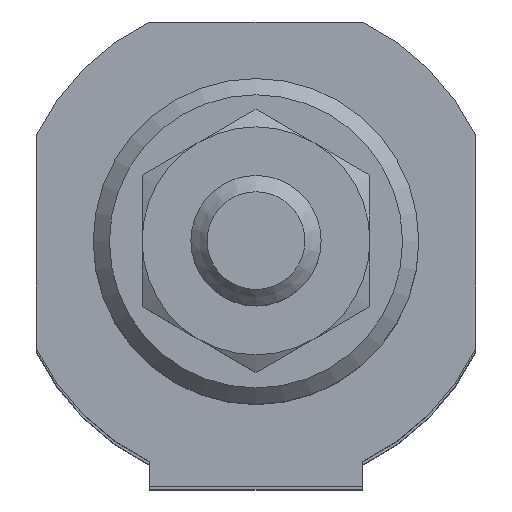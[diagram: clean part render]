
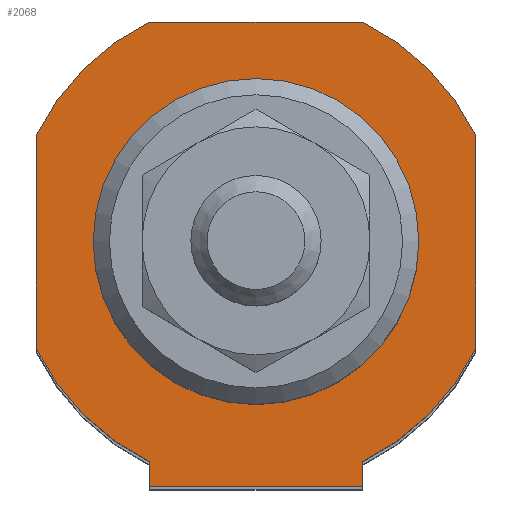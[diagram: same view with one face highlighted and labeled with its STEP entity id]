
A CAD part, top view. The second image highlights one B-rep face of the part: STEP entity #2068.
In plain terms, the highlighted planar face has unit normal (0, 0, 1).
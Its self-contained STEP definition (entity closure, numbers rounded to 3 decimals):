
#1123=CARTESIAN_POINT('',(6.538,-15.0,159.));
#1124=VERTEX_POINT('',#1123);
#1125=CARTESIAN_POINT('',(-6.538,-15.0,159.));
#1126=VERTEX_POINT('',#1125);
#1127=CARTESIAN_POINT('',(6.538,-15.0,159.));
#1128=DIRECTION('',(-1.0,0.0,0.0));
#1129=VECTOR('',#1128,13.077);
#1130=LINE('',#1127,#1129);
#1131=EDGE_CURVE('',#1124,#1126,#1130,.T.);
#1420=CARTESIAN_POINT('',(-6.538,-13.5,159.));
#1421=VERTEX_POINT('',#1420);
#1435=CARTESIAN_POINT('',(-6.538,-13.5,159.));
#1436=DIRECTION('',(0.0,-1.0,0.0));
#1437=VECTOR('',#1436,1.5);
#1438=LINE('',#1435,#1437);
#1439=EDGE_CURVE('',#1421,#1126,#1438,.T.);
#1451=CARTESIAN_POINT('',(6.538,-13.5,159.));
#1452=VERTEX_POINT('',#1451);
#1459=CARTESIAN_POINT('',(6.538,-13.5,159.));
#1460=DIRECTION('',(0.0,-1.0,0.0));
#1461=VECTOR('',#1460,1.5);
#1462=LINE('',#1459,#1461);
#1463=EDGE_CURVE('',#1452,#1124,#1462,.T.);
#1788=CARTESIAN_POINT('',(10.0,0.,159.));
#1789=VERTEX_POINT('',#1788);
#1790=CARTESIAN_POINT('',(0.,0.,159.));
#1791=DIRECTION('',(0.0,0.0,-1.0));
#1792=DIRECTION('',(-1.0,0.0,0.0));
#1793=AXIS2_PLACEMENT_3D('',#1790,#1791,#1792);
#1794=CIRCLE('',#1793,10.0);
#1795=EDGE_CURVE('',#1789,#1789,#1794,.T.);
#1888=CARTESIAN_POINT('',(6.538,13.5,159.));
#1889=VERTEX_POINT('',#1888);
#1890=CARTESIAN_POINT('',(13.5,6.538,159.));
#1891=VERTEX_POINT('',#1890);
#1892=CARTESIAN_POINT('',(0.0,0.0,159.0));
#1893=DIRECTION('',(0.0,0.0,-1.));
#1894=DIRECTION('',(-0.9,-0.436,0.0));
#1895=AXIS2_PLACEMENT_3D('',#1892,#1893,#1894);
#1896=CIRCLE('',#1895,15.);
#1897=EDGE_CURVE('',#1889,#1891,#1896,.T.);
#1920=CARTESIAN_POINT('',(13.5,-6.538,159.));
#1921=VERTEX_POINT('',#1920);
#1922=CARTESIAN_POINT('',(13.5,6.538,159.));
#1923=DIRECTION('',(0.0,-1.0,0.0));
#1924=VECTOR('',#1923,13.077);
#1925=LINE('',#1922,#1924);
#1926=EDGE_CURVE('',#1891,#1921,#1925,.T.);
#1944=CARTESIAN_POINT('',(0.0,0.0,159.0));
#1945=DIRECTION('',(0.0,0.0,-1.));
#1946=DIRECTION('',(-0.436,0.9,0.0));
#1947=AXIS2_PLACEMENT_3D('',#1944,#1945,#1946);
#1948=CIRCLE('',#1947,15.);
#1949=EDGE_CURVE('',#1921,#1452,#1948,.T.);
#1962=CARTESIAN_POINT('',(-13.5,-6.538,159.));
#1963=VERTEX_POINT('',#1962);
#1964=CARTESIAN_POINT('',(0.0,0.0,159.0));
#1965=DIRECTION('',(0.0,0.0,-1.));
#1966=DIRECTION('',(0.9,0.436,0.0));
#1967=AXIS2_PLACEMENT_3D('',#1964,#1965,#1966);
#1968=CIRCLE('',#1967,15.);
#1969=EDGE_CURVE('',#1421,#1963,#1968,.T.);
#1987=CARTESIAN_POINT('',(-13.5,6.538,159.));
#1988=VERTEX_POINT('',#1987);
#1989=CARTESIAN_POINT('',(-13.5,-6.538,159.));
#1990=DIRECTION('',(0.0,1.0,0.0));
#1991=VECTOR('',#1990,13.077);
#1992=LINE('',#1989,#1991);
#1993=EDGE_CURVE('',#1963,#1988,#1992,.T.);
#2011=CARTESIAN_POINT('',(-6.538,13.5,159.));
#2012=VERTEX_POINT('',#2011);
#2013=CARTESIAN_POINT('',(0.0,0.0,159.0));
#2014=DIRECTION('',(0.0,0.0,-1.));
#2015=DIRECTION('',(0.436,-0.9,0.0));
#2016=AXIS2_PLACEMENT_3D('',#2013,#2014,#2015);
#2017=CIRCLE('',#2016,15.);
#2018=EDGE_CURVE('',#1988,#2012,#2017,.T.);
#2036=CARTESIAN_POINT('',(-6.538,13.5,159.));
#2037=DIRECTION('',(1.0,0.0,0.0));
#2038=VECTOR('',#2037,13.077);
#2039=LINE('',#2036,#2038);
#2040=EDGE_CURVE('',#2012,#1889,#2039,.T.);
#2048=CARTESIAN_POINT('',(0.,0.0,159.));
#2049=DIRECTION('',(0.0,0.0,1.0));
#2050=DIRECTION('',(1.0,0.0,0.0));
#2051=AXIS2_PLACEMENT_3D('',#2048,#2049,#2050);
#2052=PLANE('',#2051);
#2053=ORIENTED_EDGE('',*,*,#1897,.F.);
#2054=ORIENTED_EDGE('',*,*,#2040,.F.);
#2055=ORIENTED_EDGE('',*,*,#2018,.F.);
#2056=ORIENTED_EDGE('',*,*,#1993,.F.);
#2057=ORIENTED_EDGE('',*,*,#1969,.F.);
#2058=ORIENTED_EDGE('',*,*,#1439,.T.);
#2059=ORIENTED_EDGE('',*,*,#1131,.F.);
#2060=ORIENTED_EDGE('',*,*,#1463,.F.);
#2061=ORIENTED_EDGE('',*,*,#1949,.F.);
#2062=ORIENTED_EDGE('',*,*,#1926,.F.);
#2063=EDGE_LOOP('',(#2053,#2054,#2055,#2056,#2057,#2058,#2059,#2060,#2061,#2062));
#2064=FACE_OUTER_BOUND('',#2063,.T.);
#2065=ORIENTED_EDGE('',*,*,#1795,.T.);
#2066=EDGE_LOOP('',(#2065));
#2067=FACE_BOUND('',#2066,.T.);
#2068=ADVANCED_FACE('',(#2064,#2067),#2052,.T.);
